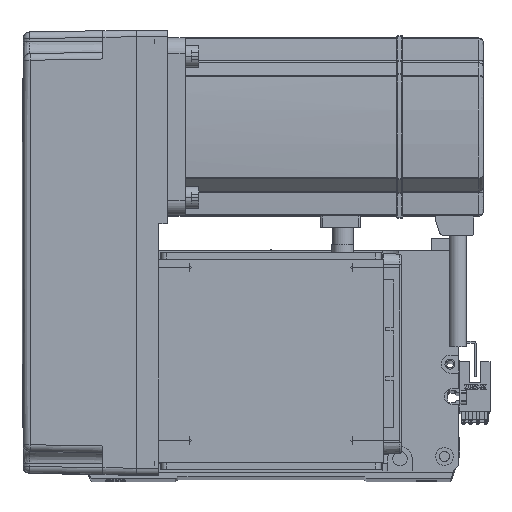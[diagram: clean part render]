
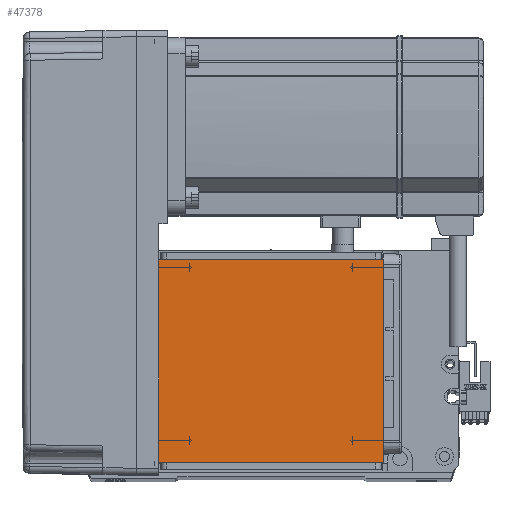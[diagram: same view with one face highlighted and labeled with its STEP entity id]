
A CAD part, top view. The second image highlights one B-rep face of the part: STEP entity #47378.
In plain terms, the highlighted planar face has unit normal (0, 0, 1).
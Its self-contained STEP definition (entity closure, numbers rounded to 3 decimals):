
#5698 = LINE ( 'NONE', #6398, #7752 ) ;
#6398 = CARTESIAN_POINT ( 'NONE',  ( 50.5, 122., 115. ) ) ;
#6536 = CARTESIAN_POINT ( 'NONE',  ( -70.004, 111.5, 115. ) ) ;
#7752 = VECTOR ( 'NONE', #37324, 1000. ) ;
#8557 = FACE_OUTER_BOUND ( 'NONE', #28742, .T. ) ;
#8783 = ORIENTED_EDGE ( 'NONE', *, *, #11374, .T. ) ;
#11374 = EDGE_CURVE ( 'NONE', #51162, #32992, #33230, .T. ) ;
#12709 = VECTOR ( 'NONE', #28162, 1000. ) ;
#13867 = VECTOR ( 'NONE', #23101, 1000. ) ;
#14439 = VERTEX_POINT ( 'NONE', #34406 ) ;
#15786 = EDGE_CURVE ( 'NONE', #14439, #19098, #5698, .T. ) ;
#19098 = VERTEX_POINT ( 'NONE', #37328 ) ;
#21693 = DIRECTION ( 'NONE',  ( 0., 0., 1. ) ) ;
#22280 = CARTESIAN_POINT ( 'NONE',  ( 0., 0., 115. ) ) ;
#23101 = DIRECTION ( 'NONE',  ( 0., -1., 0. ) ) ;
#23113 = LINE ( 'NONE', #6536, #12709 ) ;
#28162 = DIRECTION ( 'NONE',  ( 1., 0., 0. ) ) ;
#28656 = CARTESIAN_POINT ( 'NONE',  ( -70.004, 20., 115. ) ) ;
#28742 = EDGE_LOOP ( 'NONE', ( #52315, #8783, #50606, #31100 ) ) ;
#31100 = ORIENTED_EDGE ( 'NONE', *, *, #15786, .T. ) ;
#31128 = DIRECTION ( 'NONE',  ( 1., 0., 0. ) ) ;
#31963 = CARTESIAN_POINT ( 'NONE',  ( -50.5, 122., 115. ) ) ;
#32992 = VERTEX_POINT ( 'NONE', #36960 ) ;
#33230 = LINE ( 'NONE', #31963, #13867 ) ;
#34406 = CARTESIAN_POINT ( 'NONE',  ( 50.5, 20., 115. ) ) ;
#36960 = CARTESIAN_POINT ( 'NONE',  ( -50.5, 20., 115. ) ) ;
#37324 = DIRECTION ( 'NONE',  ( 0., 1., 0. ) ) ;
#37328 = CARTESIAN_POINT ( 'NONE',  ( 50.5, 111.5, 115. ) ) ;
#41982 = CARTESIAN_POINT ( 'NONE',  ( -50.5, 111.5, 115. ) ) ;
#42342 = VECTOR ( 'NONE', #42360, 1000. ) ;
#42360 = DIRECTION ( 'NONE',  ( -1., 0., 0. ) ) ;
#47156 = EDGE_CURVE ( 'NONE', #14439, #32992, #47941, .T. ) ;
#47378 = ADVANCED_FACE ( 'NONE', ( #8557 ), #52606, .T. ) ;
#47941 = LINE ( 'NONE', #28656, #42342 ) ;
#48075 = EDGE_CURVE ( 'NONE', #51162, #19098, #23113, .T. ) ;
#50606 = ORIENTED_EDGE ( 'NONE', *, *, #47156, .F. ) ;
#51162 = VERTEX_POINT ( 'NONE', #41982 ) ;
#52315 = ORIENTED_EDGE ( 'NONE', *, *, #48075, .F. ) ;
#52606 = PLANE ( 'NONE',  #54391 ) ;
#54391 = AXIS2_PLACEMENT_3D ( 'NONE', #22280, #21693, #31128 ) ;
